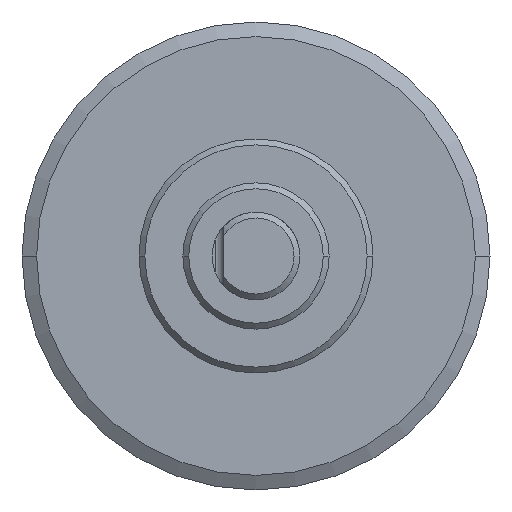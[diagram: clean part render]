
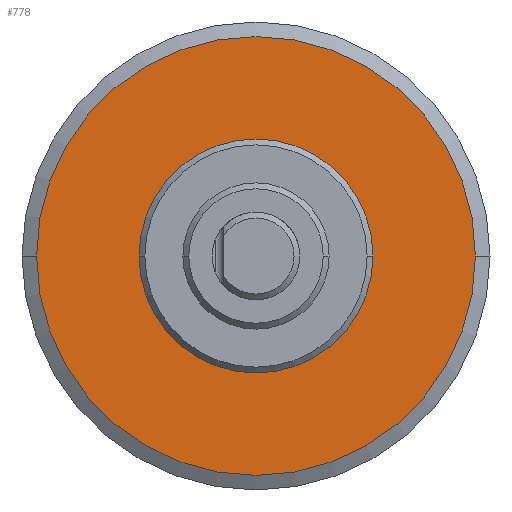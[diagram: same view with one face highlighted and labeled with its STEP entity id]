
A CAD part, left-side view. The second image highlights one B-rep face of the part: STEP entity #778.
In plain terms, the highlighted planar face has unit normal (-1, 0, 0).
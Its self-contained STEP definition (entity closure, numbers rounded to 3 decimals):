
#190=CARTESIAN_POINT('',(-15.4,0.,0.));
#191=DIRECTION('',(1.,0.,0.));
#192=DIRECTION('',(0.,-1.,0.));
#193=AXIS2_PLACEMENT_3D('',#190,#191,#192);
#195=CARTESIAN_POINT('',(-15.4,0.,0.));
#196=DIRECTION('',(1.,0.,0.));
#197=DIRECTION('',(0.,1.,0.));
#198=AXIS2_PLACEMENT_3D('',#195,#196,#197);
#200=CARTESIAN_POINT('',(-15.4,0.,0.));
#201=DIRECTION('',(-1.,0.,0.));
#202=DIRECTION('',(0.,-1.,0.));
#203=AXIS2_PLACEMENT_3D('',#200,#201,#202);
#205=CARTESIAN_POINT('',(-15.4,0.,0.));
#206=DIRECTION('',(-1.,0.,0.));
#207=DIRECTION('',(0.,1.,0.));
#208=AXIS2_PLACEMENT_3D('',#205,#206,#207);
#433=CARTESIAN_POINT('',(-15.4,-3.75,0.));
#434=VERTEX_POINT('',#433);
#435=CARTESIAN_POINT('',(-15.4,3.75,0.));
#436=VERTEX_POINT('',#435);
#441=CARTESIAN_POINT('',(-15.4,-2.,0.));
#442=CARTESIAN_POINT('',(-15.4,2.,0.));
#443=VERTEX_POINT('',#441);
#444=VERTEX_POINT('',#442);
#763=CARTESIAN_POINT('',(-15.4,0.,0.));
#764=DIRECTION('',(1.,0.,0.));
#765=DIRECTION('',(0.,-1.,0.));
#766=AXIS2_PLACEMENT_3D('',#763,#764,#765);
#767=PLANE('',#766);
#769=ORIENTED_EDGE('',*,*,#768,.T.);
#771=ORIENTED_EDGE('',*,*,#770,.T.);
#772=EDGE_LOOP('',(#769,#771));
#773=FACE_OUTER_BOUND('',#772,.F.);
#774=ORIENTED_EDGE('',*,*,#742,.T.);
#775=ORIENTED_EDGE('',*,*,#757,.T.);
#776=EDGE_LOOP('',(#774,#775));
#777=FACE_BOUND('',#776,.F.);
#194=CIRCLE('',#193,3.75);
#199=CIRCLE('',#198,3.75);
#204=CIRCLE('',#203,2.);
#209=CIRCLE('',#208,2.);
#742=EDGE_CURVE('',#443,#444,#204,.T.);
#757=EDGE_CURVE('',#444,#443,#209,.T.);
#768=EDGE_CURVE('',#434,#436,#194,.T.);
#770=EDGE_CURVE('',#436,#434,#199,.T.);
#778=ADVANCED_FACE('',(#773,#777),#767,.F.);
